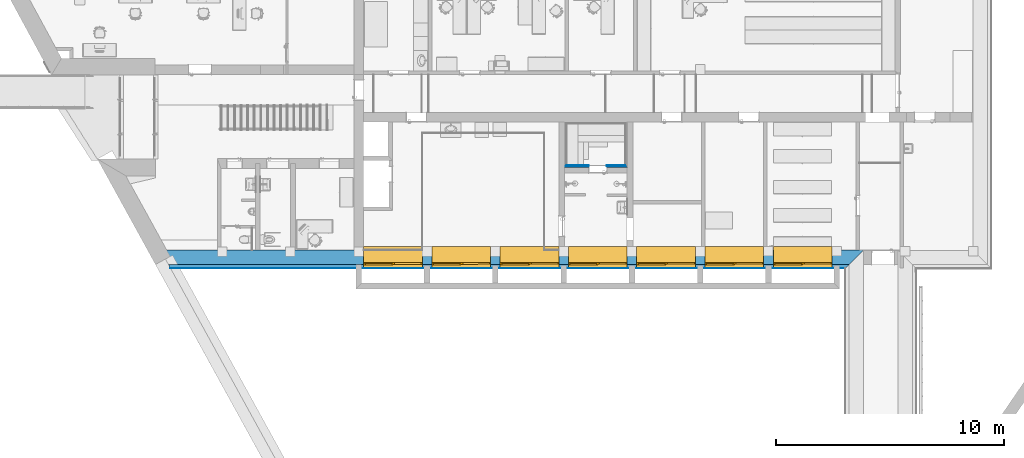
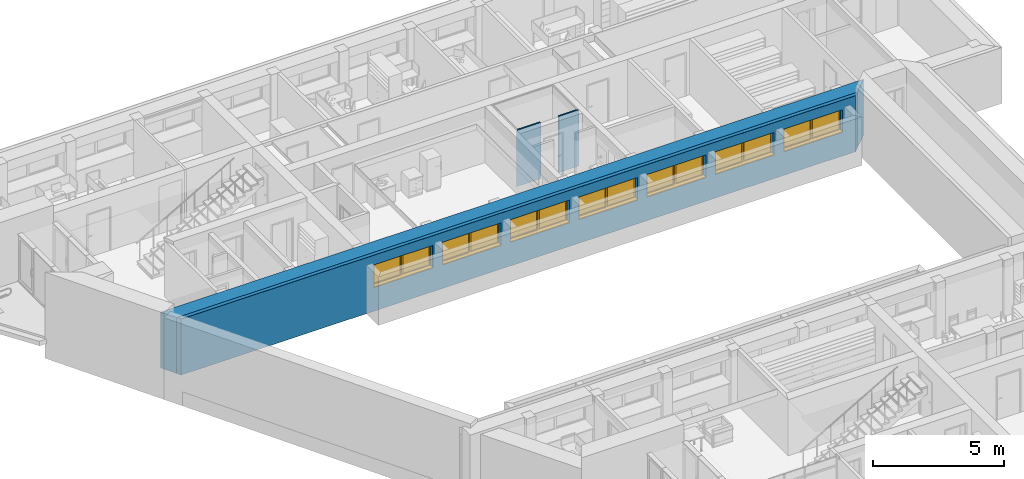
# One storey, part 28 of 127: 9 building element parts, 7 windows, 7 openings, 3 elements without a shape of their own.
"""IFC2X3 building model written with IfcOpenShell, lengths in millimetres."""

from ifc_helpers import new_model, entity, si_unit, converted_unit, derived_unit, money_unit, direction, frame, origin_with_axes, origin_2d_with_axis, place, context, subcontext, project, spatial, polyline, rectangle, outline, extrude, open_shell, faceted_brep, surface_model, source, transform, mapped, material, type_object, element, fill, aggregate, save


model = new_model("IFC2X3")

# Units and contexts
model_context = context("Model", 3, precision=1e-05, world=origin_with_axes(), true_north=direction((0.0, 1.0)))
body_context = subcontext(model_context, "Body", "Model", "MODEL_VIEW")
ifc_project = project(units=[si_unit("LENGTHUNIT", "METRE", prefix="MILLI"), si_unit("AREAUNIT", "SQUARE_METRE"), si_unit("VOLUMEUNIT", "CUBIC_METRE"), converted_unit("PLANEANGLEUNIT", "DEGREE", entity("IfcPlaneAngleMeasure", 0.0174532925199), si_unit("PLANEANGLEUNIT", "RADIAN"), dimensions=[0, 0, 0, 0, 0, 0, 0]), si_unit("SOLIDANGLEUNIT", "STERADIAN"), money_unit("EUR"), converted_unit("TIMEUNIT", "Year", entity("IfcTimeMeasure", 31556926.0), si_unit("TIMEUNIT", "SECOND"), dimensions=[0, 0, 1, 0, 0, 0, 0]), si_unit("MASSUNIT", "GRAM", prefix="KILO"), si_unit("THERMODYNAMICTEMPERATUREUNIT", "DEGREE_CELSIUS"), si_unit("LUMINOUSINTENSITYUNIT", "LUMEN"), si_unit("ENERGYUNIT", "JOULE", prefix="MEGA"), derived_unit("THERMALCONDUCTANCEUNIT", [(si_unit("POWERUNIT", "WATT"), 1), (si_unit("LENGTHUNIT", "METRE"), -1), (si_unit("THERMODYNAMICTEMPERATUREUNIT", "KELVIN"), -1)]), derived_unit("SPECIFICHEATCAPACITYUNIT", [(si_unit("ENERGYUNIT", "JOULE"), 1), (si_unit("MASSUNIT", "GRAM", prefix="KILO"), -1), (si_unit("THERMODYNAMICTEMPERATUREUNIT", "KELVIN"), -1)]), derived_unit("MASSDENSITYUNIT", [(si_unit("MASSUNIT", "GRAM", prefix="KILO"), 1), (si_unit("VOLUMEUNIT", "CUBIC_METRE"), -1)])], contexts=[model_context])

# Site, building, storey
site_placement = place(None, origin_with_axes())
site = spatial("IfcSite", under=ifc_project, at=site_placement, Name="Site", CompositionType="ELEMENT")
building_placement = place(site_placement, origin_with_axes())
building = spatial("IfcBuilding", under=site, at=building_placement, Name="Building", CompositionType="ELEMENT")
storey_placement = place(building_placement, origin_with_axes())
storey = spatial("IfcBuildingStorey", under=building, at=storey_placement, Name="1 KORRUS", CompositionType="ELEMENT", Elevation=0.0)

# Window
window_style = type_object("IfcWindowStyle", Name="A1   2\xa0580×1\xa0050", ConstructionType="NOTDEFINED", OperationType="DOUBLE_PANEL_VERTICAL", ParameterTakesPrecedence=False, Sizeable=False)
shared_shape = source(origin_with_axes(), body_context, "Body", "SurfaceModel", [
    faceted_brep([(-1290.0, 0.0, 5.0), (-1290.0, 0.0, 30.0), (-1290.0, 180.0, 30.0), (-1290.0, 180.0, 5.0), (1290.0, 0.0, 5.0), (1290.0, 0.0, 30.0), (1290.0, 180.0, 30.0), (1290.0, 180.0, 5.0)], [[[0, 1, 2, 3]], [[4, 5, 1, 0]], [[1, 5, 6, 2]], [[3, 2, 6, 7]], [[0, 3, 7, 4]], [[7, 6, 5, 4]]]),
    faceted_brep([(-1290.0, 0.0, 0.0), (-1290.0, 0.0, 5.0), (-1290.0, 180.0, 5.0), (-1290.0, 180.0, 0.0), (1290.0, 0.0, 0.0), (1290.0, 0.0, 5.0), (1290.0, 180.0, 5.0), (1290.0, 180.0, 0.0)], [[[0, 1, 2, 3]], [[4, 5, 1, 0]], [[1, 5, 6, 2]], [[3, 2, 6, 7]], [[0, 3, 7, 4]], [[7, 6, 5, 4]]]),
    faceted_brep([(1290.0, -70.0, 0.0), (1290.0, -70.0, 30.0), (1290.0, -620.0, 30.0), (1290.0, -620.0, 0.0), (-1290.0, -70.0, 0.0), (-1290.0, -70.0, 30.0), (-1290.0, -620.0, 30.0), (-1290.0, -770.0, 30.0), (1290.0, -770.0, 30.0), (1290.0, -770.0, 0.0), (-1290.0, -770.0, 0.0), (-1290.0, -620.0, 0.0)], [[[0, 1, 2, 3]], [[4, 5, 1, 0]], [[1, 5, 6, 7, 8, 2]], [[3, 2, 8, 9]], [[0, 3, 9, 10, 11, 4]], [[11, 6, 5, 4]], [[10, 7, 6, 11]], [[9, 8, 7, 10]]]),
    faceted_brep([(1240.0, -25.0, 1000.0), (1240.0, -70.0, 1000.0), (1290.0, -70.0, 1000.0), (1290.0, 0.0, 1000.0), (1265.0, 0.0, 1000.0), (1265.0, -25.0, 1000.0), (1240.0, -25.0, 50.0), (1240.0, -70.0, 50.0), (1290.0, -70.0, 50.0), (1290.0, 0.0, 50.0), (1265.0, 0.0, 50.0), (1265.0, -25.0, 50.0)], [[[0, 1, 2, 3, 4, 5]], [[6, 7, 1, 0]], [[8, 2, 1, 7]], [[9, 3, 2, 8]], [[4, 3, 9, 10]], [[10, 11, 5, 4]], [[5, 11, 6, 0]], [[11, 10, 9, 8, 7, 6]]]),
    faceted_brep([(0.0, 0.0, 1000.0), (-75.0, 0.0, 1000.0), (-75.0, -70.0, 1000.0), (25.0, -70.0, 1000.0), (25.0, -25.0, 1000.0), (0.0, -25.0, 1000.0), (0.0, 0.0, 50.0), (-75.0, 0.0, 50.0), (-75.0, -70.0, 50.0), (25.0, -70.0, 50.0), (25.0, -25.0, 50.0), (0.0, -25.0, 50.0)], [[[0, 1, 2, 3, 4, 5]], [[6, 7, 1, 0]], [[1, 7, 8, 2]], [[9, 3, 2, 8]], [[4, 3, 9, 10]], [[10, 11, 5, 4]], [[5, 11, 6, 0]], [[11, 10, 9, 8, 7, 6]]]),
    faceted_brep([(1240.0, -25.0, 50.0), (1240.0, -70.0, 50.0), (1290.0, -70.0, 50.0), (1290.0, 0.0, 50.0), (1265.0, 0.0, 50.0), (1265.0, -25.0, 50.0), (25.0, -25.0, 50.0), (25.0, -70.0, 50.0), (-1290.0, -70.0, 50.0), (-1290.0, -70.0, 0.0), (1290.0, -70.0, 0.0), (-75.0, -70.0, 50.0), (-1240.0, -70.0, 50.0), (1290.0, 0.0, 0.0), (0.0, 0.0, 25.0), (1265.0, 0.0, 25.0), (-1290.0, 0.0, 0.0), (-1290.0, 0.0, 50.0), (-1240.0, 0.0, 50.0), (-75.0, 0.0, 50.0), (0.0, 0.0, 50.0), (1265.0, -25.0, 25.0), (0.0, -25.0, 25.0), (0.0, -25.0, 50.0)], [[[0, 1, 2, 3, 4, 5]], [[6, 7, 1, 0]], [[8, 9, 10, 2, 1, 7, 11, 12]], [[13, 3, 2, 10]], [[14, 15, 4, 3, 13, 16, 17, 18, 19, 20]], [[15, 21, 5, 4]], [[5, 21, 22, 23, 6, 0]], [[23, 20, 19, 11, 7, 6]], [[17, 16, 9, 8]], [[16, 13, 10, 9]], [[19, 18, 12, 11]], [[18, 17, 8, 12]], [[14, 22, 21, 15]], [[23, 22, 14, 20]]]),
    faceted_brep([(0.0, 0.0, 1000.0), (-75.0, 0.0, 1000.0), (-1240.0, 0.0, 1000.0), (-1290.0, 0.0, 1000.0), (-1290.0, 0.0, 1050.0), (1290.0, 0.0, 1050.0), (1290.0, 0.0, 1000.0), (1265.0, 0.0, 1000.0), (1265.0, 0.0, 1025.0), (0.0, 0.0, 1025.0), (0.0, -25.0, 1000.0), (25.0, -25.0, 1000.0), (25.0, -70.0, 1000.0), (-75.0, -70.0, 1000.0), (-1240.0, -70.0, 1000.0), (-1290.0, -70.0, 1000.0), (-1290.0, -70.0, 1050.0), (1290.0, -70.0, 1050.0), (1290.0, -70.0, 1000.0), (1265.0, -25.0, 1000.0), (1240.0, -70.0, 1000.0), (1240.0, -25.0, 1000.0), (1265.0, -25.0, 1025.0), (0.0, -25.0, 1025.0)], [[[0, 1, 2, 3, 4, 5, 6, 7, 8, 9]], [[10, 11, 12, 13, 1, 0]], [[2, 1, 13, 14]], [[3, 2, 14, 15]], [[4, 3, 15, 16]], [[5, 4, 16, 17]], [[6, 5, 17, 18]], [[19, 7, 6, 18, 20, 21]], [[7, 19, 22, 8]], [[8, 22, 23, 9]], [[9, 23, 10, 0]], [[21, 11, 10, 23, 22, 19]], [[21, 20, 12, 11]], [[12, 20, 18, 17, 16, 15, 14, 13]]]),
    faceted_brep([(-1240.0, -70.0, 1000.0), (-1240.0, 0.0, 1000.0), (-1290.0, 0.0, 1000.0), (-1290.0, -70.0, 1000.0), (-1240.0, -70.0, 50.0), (-1240.0, 0.0, 50.0), (-1290.0, 0.0, 50.0), (-1290.0, -70.0, 50.0)], [[[0, 1, 2, 3]], [[4, 5, 1, 0]], [[1, 5, 6, 2]], [[3, 2, 6, 7]], [[0, 3, 7, 4]], [[7, 6, 5, 4]]]),
    surface_model("IfcShellBasedSurfaceModel", [(-1240.0, -35.0, 50.0), (-75.0, -35.0, 50.0), (-75.0, -35.0, 1000.0), (-1240.0, -35.0, 1000.0)], [open_shell([[[0, 1, 2, 3]]])]),
    surface_model("IfcShellBasedSurfaceModel", [(-1240.0, -15.0, 50.0), (-1240.0, -15.0, 1000.0), (-75.0, -15.0, 1000.0), (-75.0, -15.0, 50.0)], [open_shell([[[0, 1, 2, 3]]])]),
    faceted_brep([(50.0, -25.0, 975.0), (50.0, 25.0, 975.0), (0.0, 25.0, 975.0), (0.0, -25.0, 975.0), (50.0, -25.0, 75.0), (50.0, 25.0, 75.0), (0.0, 25.0, 75.0), (0.0, -25.0, 75.0)], [[[0, 1, 2, 3]], [[4, 5, 1, 0]], [[1, 5, 6, 2]], [[3, 2, 6, 7]], [[0, 3, 7, 4]], [[7, 6, 5, 4]]]),
    faceted_brep([(1215.0, -25.0, 75.0), (1215.0, 25.0, 75.0), (1265.0, 25.0, 75.0), (1265.0, -25.0, 75.0), (1215.0, -25.0, 975.0), (1215.0, 25.0, 975.0), (1265.0, 25.0, 975.0), (1265.0, -25.0, 975.0)], [[[0, 1, 2, 3]], [[4, 5, 1, 0]], [[1, 5, 6, 2]], [[3, 2, 6, 7]], [[0, 3, 7, 4]], [[7, 6, 5, 4]]]),
    faceted_brep([(1265.0, -25.0, 25.0), (1265.0, 25.0, 25.0), (1265.0, 25.0, 75.0), (1265.0, -25.0, 75.0), (0.0, -25.0, 25.0), (0.0, 25.0, 25.0), (0.0, 25.0, 75.0), (50.0, 25.0, 75.0), (1215.0, 25.0, 75.0), (1215.0, -25.0, 75.0), (50.0, -25.0, 75.0), (0.0, -25.0, 75.0)], [[[0, 1, 2, 3]], [[4, 5, 1, 0]], [[1, 5, 6, 7, 8, 2]], [[3, 2, 8, 9]], [[0, 3, 9, 10, 11, 4]], [[11, 6, 5, 4]], [[10, 7, 6, 11]], [[9, 8, 7, 10]]]),
    faceted_brep([(0.0, -25.0, 1025.0), (0.0, 25.0, 1025.0), (0.0, 25.0, 975.0), (0.0, -25.0, 975.0), (1265.0, -25.0, 1025.0), (1265.0, 25.0, 1025.0), (1265.0, 25.0, 975.0), (1215.0, 25.0, 975.0), (50.0, 25.0, 975.0), (50.0, -25.0, 975.0), (1215.0, -25.0, 975.0), (1265.0, -25.0, 975.0)], [[[0, 1, 2, 3]], [[4, 5, 1, 0]], [[1, 5, 6, 7, 8, 2]], [[3, 2, 8, 9]], [[0, 3, 9, 10, 11, 4]], [[11, 6, 5, 4]], [[10, 7, 6, 11]], [[9, 8, 7, 10]]]),
    surface_model("IfcShellBasedSurfaceModel", [(50.0, -10.0, 75.0), (1215.0, -10.0, 75.0), (1215.0, -10.0, 975.0), (50.0, -10.0, 975.0)], [open_shell([[[0, 1, 2, 3]]])]),
    surface_model("IfcShellBasedSurfaceModel", [(50.0, 10.0, 75.0), (50.0, 10.0, 975.0), (1215.0, 10.0, 975.0), (1215.0, 10.0, 75.0)], [open_shell([[[0, 1, 2, 3]]])]),
])
wall_1_placement = place(storey_placement, frame((7014.54250893, 58955.5850313, 0.0), z_axis=(0.0, 0.0, 1.0), x_axis=(0.9999999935, 0.000114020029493, 0.0)))
opening_1_placement = place(wall_1_placement, frame((13429.1882574, 0.0, 1100.0), z_axis=(0.0, 0.0, 1.0), x_axis=(1.0, 0.0, 0.0)))
window_1_placement = place(opening_1_placement, frame((1290.0, 0.0, 0.0), z_axis=(0.0, 0.0, 1.0), x_axis=(-1.0, 0.0, 0.0)))
window_1 = element("IfcWindow", 1, at=window_1_placement, inside=storey, type_object=window_style, Name="välisaken * Double Window 22", OverallHeight=1050.0, OverallWidth=2580.0, context=body_context, shape_type="MappedRepresentation", body=[
    mapped(shared_shape, transform((1290.0, -10.0000000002, 0.0))),
])

opening_2_placement = place(wall_1_placement, frame((16433.6660924, 9.09494701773e-10, 1100.0), z_axis=(0.0, 0.0, 1.0), x_axis=(1.0, 0.0, 0.0)))
window_2_placement = place(opening_2_placement, frame((1290.0, -9.09494701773e-10, 0.0), z_axis=(0.0, 0.0, 1.0), x_axis=(-1.0, 0.0, 0.0)))
window_2 = element("IfcWindow", 2, at=window_2_placement, inside=storey, type_object=window_style, Name="välisaken * Double Window 22", OverallHeight=1050.0, OverallWidth=2580.0, context=body_context, shape_type="MappedRepresentation", body=[
    mapped(shared_shape, transform((1290.0, -9.99999999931, 0.0))),
])

opening_3_placement = place(wall_1_placement, frame((22429.9053053, 0.0, 1100.0), z_axis=(0.0, 0.0, 1.0), x_axis=(1.0, 0.0, 0.0)))
window_3_placement = place(opening_3_placement, frame((1290.0, 0.0, 0.0), z_axis=(0.0, 0.0, 1.0), x_axis=(-1.0, 0.0, 0.0)))
window_3 = element("IfcWindow", 3, at=window_3_placement, inside=storey, type_object=window_style, Name="välisaken * Double Window 22", OverallHeight=1050.0, OverallWidth=2580.0, context=body_context, shape_type="MappedRepresentation", body=[
    mapped(shared_shape, transform((1290.0, -10.0000000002, 0.0))),
])

opening_4_placement = place(wall_1_placement, frame((25430.2078456, 9.09494701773e-10, 1100.0), z_axis=(0.0, 0.0, 1.0), x_axis=(1.0, 0.0, 0.0)))
window_4_placement = place(opening_4_placement, frame((1290.0, -9.09494701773e-10, 0.0), z_axis=(0.0, 0.0, 1.0), x_axis=(-1.0, 0.0, 0.0)))
window_4 = element("IfcWindow", 4, at=window_4_placement, inside=storey, type_object=window_style, Name="välisaken * Double Window 22", OverallHeight=1050.0, OverallWidth=2580.0, context=body_context, shape_type="MappedRepresentation", body=[
    mapped(shared_shape, transform((1290.0, -9.99999999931, 0.0))),
])

opening_5_placement = place(wall_1_placement, frame((28430.2539803, 9.09494701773e-10, 1100.0), z_axis=(0.0, 0.0, 1.0), x_axis=(1.0, 0.0, 0.0)))
window_5_placement = place(opening_5_placement, frame((1290.0, -9.09494701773e-10, 0.0), z_axis=(0.0, 0.0, 1.0), x_axis=(-1.0, 0.0, 0.0)))
window_5 = element("IfcWindow", 5, at=window_5_placement, inside=storey, type_object=window_style, Name="välisaken * Double Window 22", OverallHeight=1050.0, OverallWidth=2580.0, context=body_context, shape_type="MappedRepresentation", body=[
    mapped(shared_shape, transform((1290.0, -10.0000000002, 0.0))),
])

opening_6_placement = place(wall_1_placement, frame((19430.2569199, 0.0, 1100.0), z_axis=(0.0, 0.0, 1.0), x_axis=(1.0, 0.0, 0.0)))
window_6_placement = place(opening_6_placement, frame((1290.0, 0.0, 0.0), z_axis=(0.0, 0.0, 1.0), x_axis=(-1.0, 0.0, 0.0)))
window_6 = element("IfcWindow", 6, at=window_6_placement, inside=storey, type_object=window_style, Name="välisaken * Double Window 22", OverallHeight=1050.0, OverallWidth=2580.0, context=body_context, shape_type="MappedRepresentation", body=[
    mapped(shared_shape, transform((1290.0, -10.0000000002, 0.0))),
])

opening_7_placement = place(wall_1_placement, frame((10431.7146844, 9.09494701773e-10, 1100.0), z_axis=(0.0, 0.0, 1.0), x_axis=(1.0, 0.0, 0.0)))
window_7_placement = place(opening_7_placement, frame((1290.0, -9.09494701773e-10, 0.0), z_axis=(0.0, 0.0, 1.0), x_axis=(-1.0, 0.0, 0.0)))
window_7 = element("IfcWindow", 7, at=window_7_placement, inside=storey, type_object=window_style, Name="välisaken * Double Window 22", OverallHeight=1050.0, OverallWidth=2580.0, context=body_context, shape_type="MappedRepresentation", body=[
    mapped(shared_shape, transform((1290.0, -9.99999999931, 0.0))),
])

# Wall, opening
wall_type_1 = type_object("IfcWallType", Name="VS-3", PredefinedType="NOTDEFINED")
wall_1 = element("IfcWall", 8, at=wall_1_placement, inside=storey, type_object=wall_type_1, Name="VS3 krohv")
opening_1 = element("IfcOpeningElement", 9, at=opening_1_placement, cuts=wall_1, Name="välisaken * Double Window 22", context=body_context, shape_type="SweptSolid", body=[
    extrude(rectangle(XDim=2580.0, YDim=1050.0, at=origin_2d_with_axis()), frame((1.13686837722e-10, 10.0000000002, 525.0), z_axis=(0.0, -1.0, 0.0), x_axis=(-1.0, 0.0, 0.0)), (0.0, 0.0, -1.0), 1420.0),
    extrude(rectangle(XDim=2580.0, YDim=1050.0, at=origin_2d_with_axis()), frame((2.27373675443e-10, 10.0000000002, 525.0), z_axis=(0.0, 1.0, 0.0), x_axis=(-1.0, 0.0, 0.0)), (0.0, 0.0, -1.0), 980.0),
])

fill(opening_1, window_1)

# Opening
opening_2 = element("IfcOpeningElement", 10, at=opening_2_placement, cuts=wall_1, Name="välisaken * Double Window 22", context=body_context, shape_type="SweptSolid", body=[
    extrude(rectangle(XDim=2580.0, YDim=1050.0, at=origin_2d_with_axis()), frame((1.13686837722e-10, 9.99999999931, 525.0), z_axis=(0.0, -1.0, 0.0), x_axis=(-1.0, 0.0, 0.0)), (0.0, 0.0, -1.0), 1420.0),
    extrude(rectangle(XDim=2580.0, YDim=1050.0, at=origin_2d_with_axis()), frame((1.13686837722e-10, 9.99999999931, 525.0), z_axis=(0.0, 1.0, 0.0), x_axis=(-1.0, 0.0, 0.0)), (0.0, 0.0, -1.0), 980.0),
])

fill(opening_2, window_2)

opening_3 = element("IfcOpeningElement", 11, at=opening_3_placement, cuts=wall_1, Name="välisaken * Double Window 22", context=body_context, shape_type="SweptSolid", body=[
    extrude(rectangle(XDim=2580.0, YDim=1050.0, at=origin_2d_with_axis()), frame((0.0, 10.0000000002, 525.0), z_axis=(0.0, -1.0, 0.0), x_axis=(-1.0, 0.0, 0.0)), (0.0, 0.0, -1.0), 1420.0),
    extrude(rectangle(XDim=2580.0, YDim=1050.0, at=origin_2d_with_axis()), frame((2.27373675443e-10, 10.0000000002, 525.0), z_axis=(0.0, 1.0, 0.0), x_axis=(-1.0, 0.0, 0.0)), (0.0, 0.0, -1.0), 980.0),
])

fill(opening_3, window_3)

opening_4 = element("IfcOpeningElement", 12, at=opening_4_placement, cuts=wall_1, Name="välisaken * Double Window 22", context=body_context, shape_type="SweptSolid", body=[
    extrude(rectangle(XDim=2580.0, YDim=1050.0, at=origin_2d_with_axis()), frame((1.13686837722e-10, 9.99999999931, 525.0), z_axis=(0.0, -1.0, 0.0), x_axis=(-1.0, 0.0, 0.0)), (0.0, 0.0, -1.0), 1420.0),
    extrude(rectangle(XDim=2580.0, YDim=1050.0, at=origin_2d_with_axis()), frame((0.0, 9.99999999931, 525.0), z_axis=(0.0, 1.0, 0.0), x_axis=(-1.0, 0.0, 0.0)), (0.0, 0.0, -1.0), 980.0),
])

fill(opening_4, window_4)

opening_5 = element("IfcOpeningElement", 13, at=opening_5_placement, cuts=wall_1, Name="välisaken * Double Window 22", context=body_context, shape_type="SweptSolid", body=[
    extrude(rectangle(XDim=2580.0, YDim=1050.0, at=origin_2d_with_axis()), frame((1.13686837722e-10, 10.0000000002, 525.0), z_axis=(0.0, -1.0, 0.0), x_axis=(-1.0, 0.0, 0.0)), (0.0, 0.0, -1.0), 1420.0),
    extrude(rectangle(XDim=2580.0, YDim=1050.0, at=origin_2d_with_axis()), frame((1.13686837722e-10, 10.0000000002, 525.0), z_axis=(0.0, 1.0, 0.0), x_axis=(-1.0, 0.0, 0.0)), (0.0, 0.0, -1.0), 980.0),
])

fill(opening_5, window_5)

opening_6 = element("IfcOpeningElement", 14, at=opening_6_placement, cuts=wall_1, Name="välisaken * Double Window 22", context=body_context, shape_type="SweptSolid", body=[
    extrude(rectangle(XDim=2580.0, YDim=1050.0, at=origin_2d_with_axis()), frame((-1.13686837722e-10, 10.0000000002, 525.0), z_axis=(0.0, -1.0, 0.0), x_axis=(-1.0, 0.0, 0.0)), (0.0, 0.0, -1.0), 1420.0),
    extrude(rectangle(XDim=2580.0, YDim=1050.0, at=origin_2d_with_axis()), frame((0.0, 10.0000000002, 525.0), z_axis=(0.0, 1.0, 0.0), x_axis=(-1.0, 0.0, 0.0)), (0.0, 0.0, -1.0), 980.0),
])

fill(opening_6, window_6)

opening_7 = element("IfcOpeningElement", 15, at=opening_7_placement, cuts=wall_1, Name="välisaken * Double Window 22", context=body_context, shape_type="SweptSolid", body=[
    extrude(rectangle(XDim=2580.0, YDim=1050.0, at=origin_2d_with_axis()), frame((-1.13686837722e-10, 9.99999999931, 525.0), z_axis=(0.0, -1.0, 0.0), x_axis=(-1.0, 0.0, 0.0)), (0.0, 0.0, -1.0), 1420.0),
    extrude(rectangle(XDim=2580.0, YDim=1050.0, at=origin_2d_with_axis()), frame((1.13686837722e-10, 9.99999999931, 525.0), z_axis=(0.0, 1.0, 0.0), x_axis=(-1.0, 0.0, 0.0)), (0.0, 0.0, -1.0), 980.0),
])

fill(opening_7, window_7)

# Building element part
ifc_material_1 = material(Name="Kivi - Ol.Olev Konstruktsioon")
building_element_part_1_placement = place(wall_1_placement, origin_with_axes())
building_element_part_1 = element("IfcBuildingElementPart", 16, at=building_element_part_1_placement, material=ifc_material_1, Name="Kivi - Ol.Olev Konstruktsioon", context=body_context, shape_type="SweptSolid", body=[
    extrude(outline(polyline([(570.667765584, 9.09494701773e-10), (30471.6513006, 0.0), (31101.9519911, 630.0), (224.064299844, 630.0), (570.667765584, 9.09494701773e-10)])), origin_with_axes(), (0.0, 0.0, 1.0), 2600.0),
])

ifc_material_2 = material(Name="Soojustus - Plastik Kõva")
building_element_part_2_placement = place(wall_1_placement, origin_with_axes())
building_element_part_2 = element("IfcBuildingElementPart", 17, at=building_element_part_2_placement, material=ifc_material_2, Name="Soojustus - Plastik Kõva", context=body_context, shape_type="SweptSolid", body=[
    extrude(outline(polyline([(658.694042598, -160.0), (30311.5749347, -160.0), (30471.6513006, 0.0), (570.667765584, 9.09494701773e-10), (658.694042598, -160.0)])), origin_with_axes(), (0.0, 0.0, 1.0), 2600.0),
])

ifc_material_3 = material(Name="Krohv - Õhekrohv")
building_element_part_3_placement = place(wall_1_placement, origin_with_axes())
building_element_part_3 = element("IfcBuildingElementPart", 18, at=building_element_part_3_placement, material=ifc_material_3, Name="Krohv - Õhekrohv", context=body_context, shape_type="SweptSolid", body=[
    extrude(outline(polyline([(664.195684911, -169.999999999), (30301.5701619, -169.999999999), (30311.5749347, -160.0), (658.694042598, -160.0), (664.195684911, -169.999999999)])), origin_with_axes(), (0.0, 0.0, 1.0), 2600.0),
])

aggregate(wall_1, [building_element_part_1, building_element_part_2, building_element_part_3])

# Wall, building element parts
wall_type_2 = type_object("IfcWallType", Name="SS-3", PredefinedType="NOTDEFINED")
wall_2_placement = place(storey_placement, frame((27647.7274585, 63317.8824025, 0.0), z_axis=(0.0, 0.0, 1.0), x_axis=(-1.0, 0.0, 0.0)))
wall_2 = element("IfcWall", 19, at=wall_2_placement, inside=storey, type_object=wall_type_2, Name="SS-3")
ifc_material_4 = material(Name="Puitplaat")
building_element_part_4_placement = place(wall_2_placement, origin_with_axes())
building_element_part_4 = element("IfcBuildingElementPart", 20, at=building_element_part_4_placement, material=ifc_material_4, Name="Puitplaat", context=body_context, shape_type="SweptSolid", body=[
    extrude(outline(polyline([(0.0, 0.0), (799.981211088, 0.0), (799.981211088, 15.0000000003), (-15.0, 15.0000000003), (0.0, 0.0)])), origin_with_axes(), (0.0, 0.0, 1.0), 2600.0),
])
ifc_material_5 = material(Name="Air Space")
building_element_part_5_placement = place(wall_2_placement, origin_with_axes())
building_element_part_5 = element("IfcBuildingElementPart", 21, at=building_element_part_5_placement, material=ifc_material_5, Name="Air Space", context=body_context, shape_type="SweptSolid", body=[
    extrude(outline(polyline([(-15.0, 15.0000000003), (799.981211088, 15.0000000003), (799.981211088, 37.0000000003), (-37.0, 37.0000000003), (-15.0, 15.0000000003)])), origin_with_axes(), (0.0, 0.0, 1.0), 2600.0),
])
building_element_part_6_placement = place(wall_2_placement, origin_with_axes())
building_element_part_6 = element("IfcBuildingElementPart", 22, at=building_element_part_6_placement, material=ifc_material_4, Name="Puitplaat", context=body_context, shape_type="SweptSolid", body=[
    extrude(outline(polyline([(-37.0, 37.0000000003), (799.981211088, 37.0000000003), (799.981211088, 87.0000000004), (-87.0, 87.0000000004), (-37.0, 37.0000000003)])), origin_with_axes(), (0.0, 0.0, 1.0), 2600.0),
])
aggregate(wall_2, [building_element_part_4, building_element_part_5, building_element_part_6])

wall_3_placement = place(storey_placement, frame((26047.7462475, 63317.8824025, 0.0), z_axis=(0.0, 0.0, 1.0), x_axis=(-1.0, 0.0, 0.0)))
wall_3 = element("IfcWall", 23, at=wall_3_placement, inside=storey, type_object=wall_type_2, Name="SS-3")
building_element_part_7_placement = place(wall_3_placement, origin_with_axes())
building_element_part_7 = element("IfcBuildingElementPart", 24, at=building_element_part_7_placement, material=ifc_material_4, Name="Puitplaat", context=body_context, shape_type="SweptSolid", body=[
    extrude(outline(polyline([(0.0, 0.0), (972.609593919, 0.0), (987.609593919, 15.0000000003), (0.0, 15.0000000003), (0.0, 0.0)])), origin_with_axes(), (0.0, 0.0, 1.0), 2600.0),
])
building_element_part_8_placement = place(wall_3_placement, origin_with_axes())
building_element_part_8 = element("IfcBuildingElementPart", 25, at=building_element_part_8_placement, material=ifc_material_5, Name="Air Space", context=body_context, shape_type="SweptSolid", body=[
    extrude(outline(polyline([(0.0, 15.0000000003), (987.609593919, 15.0000000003), (1009.60959392, 37.0000000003), (0.0, 37.0000000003), (0.0, 15.0000000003)])), origin_with_axes(), (0.0, 0.0, 1.0), 2600.0),
])
building_element_part_9_placement = place(wall_3_placement, origin_with_axes())
building_element_part_9 = element("IfcBuildingElementPart", 26, at=building_element_part_9_placement, material=ifc_material_4, Name="Puitplaat", context=body_context, shape_type="SweptSolid", body=[
    extrude(outline(polyline([(0.0, 37.0000000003), (1009.60959392, 37.0000000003), (1059.60959392, 87.0000000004), (0.0, 87.0000000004), (0.0, 37.0000000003)])), origin_with_axes(), (0.0, 0.0, 1.0), 2600.0),
])
aggregate(wall_3, [building_element_part_7, building_element_part_8, building_element_part_9])

save(model, "model.ifc")
